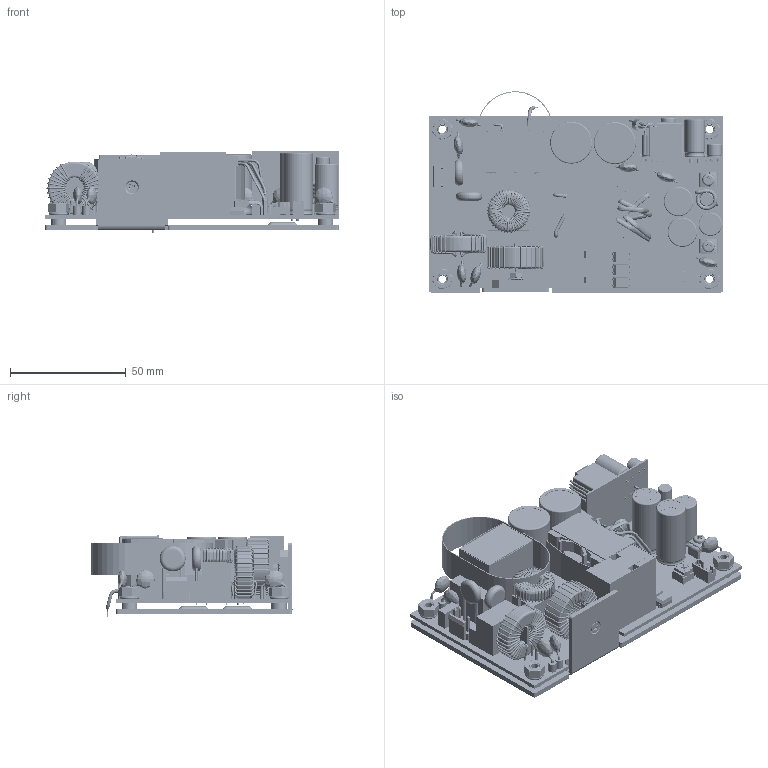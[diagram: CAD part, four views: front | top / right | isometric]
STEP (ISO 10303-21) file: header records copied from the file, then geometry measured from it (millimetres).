
FILE_DESCRIPTION (( 'STEP AP203' ), '1' );
FILE_NAME ('CFM300MXXX&CFM300SXXX¦¨«~¹Ï-1130726.STEP', '2024-10-18T01:36:17', ( 'cincon' ), ( '' ), 'SwSTEP 2.0', 'SolidWorks 2020', '' );
FILE_SCHEMA (( 'CONFIG_CONTROL_DESIGN' ));
Length unit declared in the file: millimetre
Products named in the file (45): OptoCoupler TLP521-2; CFM300MXXX&CFM300SXXX成品圖-1130726; CFM201S LF2; CFM300M 10.2x20mm電容; CFM300M 6.4x10.4mm電容; M3x6螺絲端子座示意圖 102,08,29; M3x8L螺絲(M-C449-00-S)G75A1100643(頭徑5.0)碩品; CFM300M CY7 ; CFM300M 18.2x26.2mm電容; CFM300M L5 示意圖; CFM300M PCB2變壓器示意圖; CFM300M CY4 ; LDM100 VR(GF063P1) 100,12,28; CFM300M L7-1080904; CFM300M 8.2x16.4mm電容; 4PIN插座; CFM300M 6.4x5.6mm電容; CFM300M變壓器示意圖L1; _2; CFM300M PCB(03)-B-1080903; CFM300M Z1; CFM300M六角銅柱M5-1040518; CFM300M FORMEX GK-17 G612911A004-1060823; CFM300M CY5 ; CFM300M 6.4x9.6mm電容; CFM300M PCB(03)-1080903; CFM300M電容 12.7x27; CFM300M CY6 ; 橋式整流器電晶體-1030307; CFM300M變壓器L4示意圖; CFM300M 2 PIN(3孔)7.92插座示意圖; CFM300M鋁板散熱片(M-B123-03-J)-1050105; CFM300M CY1; CFM300M 6PIN插座示意圖; Header 2_54 Horizontal 3x; Header 2_54 Horizontal 5x; 螺母M3齒型華司-1030307; 螺母M5-1030904; ｼuﾂｮｵﾘ･q｣p5.2mmｲﾕｸﾋ･ﾜｷN
Assembly tree (60 placements, depth 3):
  CFM300MXXX&CFM300SXXX成品圖-1130726
    CFM300M PCB(03)-1080903
    CFM201S LF2
    CFM300M L7-1080904
    CFM300M Z1  x2
    CFM300M CY4 
    OptoCoupler TLP521-2  x5
    CFM300M CY4 
    CFM300M CY4 
    _2
    CFM300M CY1
    4PIN插座
    M3x6螺絲端子座示意圖 102,08,29
    M3x6螺絲端子座示意圖 102,08,29
    CFM300M CY4 
    LDM100 VR(GF063P1) 100,12,28
    橋式整流器電晶體-1030307
    CFM300M變壓器示意圖L1
    CFM300M 6PIN插座示意圖
    CFM300M變壓器L4示意圖
    CFM300M鋁板散熱片(M-B123-03-J)-1050105
      CFM300M六角銅柱M5-1040518  x4
      CFM300M鋁板散熱片(M-B123-03-J)-1050105
    CFM300M FORMEX GK-17 G612911A004-1060823
    M3x8L螺絲(M-C449-00-S)G75A1100643(頭徑5.0)碩品
    螺母M5-1030904  x4
    螺母M3齒型華司-1030307
    CFM300M 6.4x10.4mm電容
    CFM300M CY6 
    CFM300M CY7 
    CFM300M 2 PIN(3孔)7.92插座示意圖
    ｼuﾂｮｵﾘ･q｣p5.2mmｲﾕｸﾋ･ﾜｷN  x4
    CFM300M CY5 
    CFM300M PCB(03)-B-1080903
    CFM300M 18.2x26.2mm電容
    CFM300M 18.2x26.2mm電容
    CFM300M電容 12.7x27  x2
    CFM300M 10.2x20mm電容
    CFM300M 8.2x16.4mm電容  x2
    CFM300M 6.4x9.6mm電容
    CFM300M 6.4x5.6mm電容
    Header 2_54 Horizontal 5x
    Header 2_54 Horizontal 3x
    CFM300M L5 示意圖
    CFM300M PCB2變壓器示意圖
Bounding box: 127.2 x 87 x 35.19 mm (x, y, z)
Volume: 134581.5 mm3; surface area: 131470.4 mm2
Topology: 85 solids, 85 shells, 6295 faces, 17573 edges, 11239 vertices
Faces by surface type: plane 2326, cylinder 2116, bspline 897, torus 740, cone 216
Entity records: 241508 total; most frequent: CARTESIAN_POINT 100060, ORIENTED_EDGE 31676, DIRECTION 25818, EDGE_CURVE 15838, VERTEX_POINT 10178, AXIS2_PLACEMENT_3D 9571, VECTOR 6676, LINE 6676
